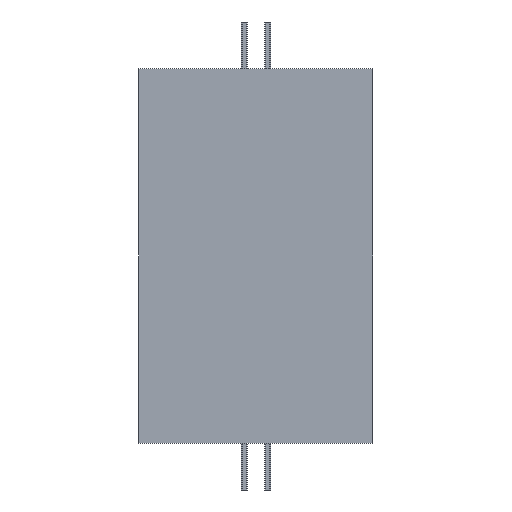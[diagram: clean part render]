
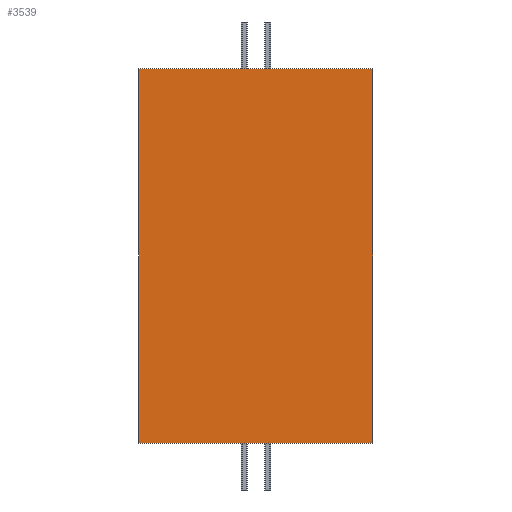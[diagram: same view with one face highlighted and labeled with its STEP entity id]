
A CAD part, front view. The second image highlights one B-rep face of the part: STEP entity #3539.
In plain terms, the highlighted planar face has unit normal (0, -1, 0).
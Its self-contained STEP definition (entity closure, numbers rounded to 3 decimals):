
#3323 = EDGE_CURVE('',#3324,#3326,#3328,.T.);
#3324 = VERTEX_POINT('',#3325);
#3325 = CARTESIAN_POINT('',(-762.,-6.,304.8));
#3326 = VERTEX_POINT('',#3327);
#3327 = CARTESIAN_POINT('',(-762.,-6.,2743.2));
#3328 = SURFACE_CURVE('',#3329,(#3333,#3345),.PCURVE_S1.);
#3329 = LINE('',#3330,#3331);
#3330 = CARTESIAN_POINT('',(-762.,-6.,304.8));
#3331 = VECTOR('',#3332,1.);
#3332 = DIRECTION('',(0.,0.,1.));
#3333 = PCURVE('',#3334,#3339);
#3334 = PLANE('',#3335);
#3335 = AXIS2_PLACEMENT_3D('',#3336,#3337,#3338);
#3336 = CARTESIAN_POINT('',(-762.,-6.,304.8));
#3337 = DIRECTION('',(1.,0.,0.));
#3338 = DIRECTION('',(0.,0.,1.));
#3339 = DEFINITIONAL_REPRESENTATION('',(#3340),#3344);
#3340 = LINE('',#3341,#3342);
#3341 = CARTESIAN_POINT('',(0.,0.));
#3342 = VECTOR('',#3343,1.);
#3343 = DIRECTION('',(1.,0.));
#3344 = ( GEOMETRIC_REPRESENTATION_CONTEXT(2) 
PARAMETRIC_REPRESENTATION_CONTEXT() REPRESENTATION_CONTEXT('2D SPACE',''
  ) );
#3345 = PCURVE('',#3346,#3351);
#3346 = PLANE('',#3347);
#3347 = AXIS2_PLACEMENT_3D('',#3348,#3349,#3350);
#3348 = CARTESIAN_POINT('',(-762.,-6.,304.8));
#3349 = DIRECTION('',(0.,1.,0.));
#3350 = DIRECTION('',(0.,0.,1.));
#3351 = DEFINITIONAL_REPRESENTATION('',(#3352),#3356);
#3352 = LINE('',#3353,#3354);
#3353 = CARTESIAN_POINT('',(0.,0.));
#3354 = VECTOR('',#3355,1.);
#3355 = DIRECTION('',(1.,0.));
#3356 = ( GEOMETRIC_REPRESENTATION_CONTEXT(2) 
PARAMETRIC_REPRESENTATION_CONTEXT() REPRESENTATION_CONTEXT('2D SPACE',''
  ) );
#3374 = PLANE('',#3375);
#3375 = AXIS2_PLACEMENT_3D('',#3376,#3377,#3378);
#3376 = CARTESIAN_POINT('',(-762.,-6.,304.8));
#3377 = DIRECTION('',(0.,0.,1.));
#3378 = DIRECTION('',(1.,0.,0.));
#3428 = PLANE('',#3429);
#3429 = AXIS2_PLACEMENT_3D('',#3430,#3431,#3432);
#3430 = CARTESIAN_POINT('',(-762.,-6.,2743.2));
#3431 = DIRECTION('',(0.,0.,1.));
#3432 = DIRECTION('',(1.,0.,0.));
#3443 = EDGE_CURVE('',#3444,#3446,#3448,.T.);
#3444 = VERTEX_POINT('',#3445);
#3445 = CARTESIAN_POINT('',(762.,-6.,304.8));
#3446 = VERTEX_POINT('',#3447);
#3447 = CARTESIAN_POINT('',(762.,-6.,2743.2));
#3448 = SURFACE_CURVE('',#3449,(#3453,#3465),.PCURVE_S1.);
#3449 = LINE('',#3450,#3451);
#3450 = CARTESIAN_POINT('',(762.,-6.,304.8));
#3451 = VECTOR('',#3452,1.);
#3452 = DIRECTION('',(0.,0.,1.));
#3453 = PCURVE('',#3454,#3459);
#3454 = PLANE('',#3455);
#3455 = AXIS2_PLACEMENT_3D('',#3456,#3457,#3458);
#3456 = CARTESIAN_POINT('',(762.,-6.,304.8));
#3457 = DIRECTION('',(1.,0.,0.));
#3458 = DIRECTION('',(0.,0.,1.));
#3459 = DEFINITIONAL_REPRESENTATION('',(#3460),#3464);
#3460 = LINE('',#3461,#3462);
#3461 = CARTESIAN_POINT('',(0.,0.));
#3462 = VECTOR('',#3463,1.);
#3463 = DIRECTION('',(1.,0.));
#3464 = ( GEOMETRIC_REPRESENTATION_CONTEXT(2) 
PARAMETRIC_REPRESENTATION_CONTEXT() REPRESENTATION_CONTEXT('2D SPACE',''
  ) );
#3465 = PCURVE('',#3346,#3466);
#3466 = DEFINITIONAL_REPRESENTATION('',(#3467),#3471);
#3467 = LINE('',#3468,#3469);
#3468 = CARTESIAN_POINT('',(0.,1524.));
#3469 = VECTOR('',#3470,1.);
#3470 = DIRECTION('',(1.,0.));
#3471 = ( GEOMETRIC_REPRESENTATION_CONTEXT(2) 
PARAMETRIC_REPRESENTATION_CONTEXT() REPRESENTATION_CONTEXT('2D SPACE',''
  ) );
#3539 = ADVANCED_FACE('',(#3540),#3346,.F.);
#3540 = FACE_BOUND('',#3541,.F.);
#3541 = EDGE_LOOP('',(#3542,#3563,#3564,#3585));
#3542 = ORIENTED_EDGE('',*,*,#3543,.F.);
#3543 = EDGE_CURVE('',#3324,#3444,#3544,.T.);
#3544 = SURFACE_CURVE('',#3545,(#3549,#3556),.PCURVE_S1.);
#3545 = LINE('',#3546,#3547);
#3546 = CARTESIAN_POINT('',(-762.,-6.,304.8));
#3547 = VECTOR('',#3548,1.);
#3548 = DIRECTION('',(1.,0.,0.));
#3549 = PCURVE('',#3346,#3550);
#3550 = DEFINITIONAL_REPRESENTATION('',(#3551),#3555);
#3551 = LINE('',#3552,#3553);
#3552 = CARTESIAN_POINT('',(0.,0.));
#3553 = VECTOR('',#3554,1.);
#3554 = DIRECTION('',(0.,1.));
#3555 = ( GEOMETRIC_REPRESENTATION_CONTEXT(2) 
PARAMETRIC_REPRESENTATION_CONTEXT() REPRESENTATION_CONTEXT('2D SPACE',''
  ) );
#3556 = PCURVE('',#3374,#3557);
#3557 = DEFINITIONAL_REPRESENTATION('',(#3558),#3562);
#3558 = LINE('',#3559,#3560);
#3559 = CARTESIAN_POINT('',(0.,0.));
#3560 = VECTOR('',#3561,1.);
#3561 = DIRECTION('',(1.,0.));
#3562 = ( GEOMETRIC_REPRESENTATION_CONTEXT(2) 
PARAMETRIC_REPRESENTATION_CONTEXT() REPRESENTATION_CONTEXT('2D SPACE',''
  ) );
#3563 = ORIENTED_EDGE('',*,*,#3323,.T.);
#3564 = ORIENTED_EDGE('',*,*,#3565,.T.);
#3565 = EDGE_CURVE('',#3326,#3446,#3566,.T.);
#3566 = SURFACE_CURVE('',#3567,(#3571,#3578),.PCURVE_S1.);
#3567 = LINE('',#3568,#3569);
#3568 = CARTESIAN_POINT('',(-762.,-6.,2743.2));
#3569 = VECTOR('',#3570,1.);
#3570 = DIRECTION('',(1.,0.,0.));
#3571 = PCURVE('',#3346,#3572);
#3572 = DEFINITIONAL_REPRESENTATION('',(#3573),#3577);
#3573 = LINE('',#3574,#3575);
#3574 = CARTESIAN_POINT('',(2438.4,0.));
#3575 = VECTOR('',#3576,1.);
#3576 = DIRECTION('',(0.,1.));
#3577 = ( GEOMETRIC_REPRESENTATION_CONTEXT(2) 
PARAMETRIC_REPRESENTATION_CONTEXT() REPRESENTATION_CONTEXT('2D SPACE',''
  ) );
#3578 = PCURVE('',#3428,#3579);
#3579 = DEFINITIONAL_REPRESENTATION('',(#3580),#3584);
#3580 = LINE('',#3581,#3582);
#3581 = CARTESIAN_POINT('',(0.,0.));
#3582 = VECTOR('',#3583,1.);
#3583 = DIRECTION('',(1.,0.));
#3584 = ( GEOMETRIC_REPRESENTATION_CONTEXT(2) 
PARAMETRIC_REPRESENTATION_CONTEXT() REPRESENTATION_CONTEXT('2D SPACE',''
  ) );
#3585 = ORIENTED_EDGE('',*,*,#3443,.F.);
